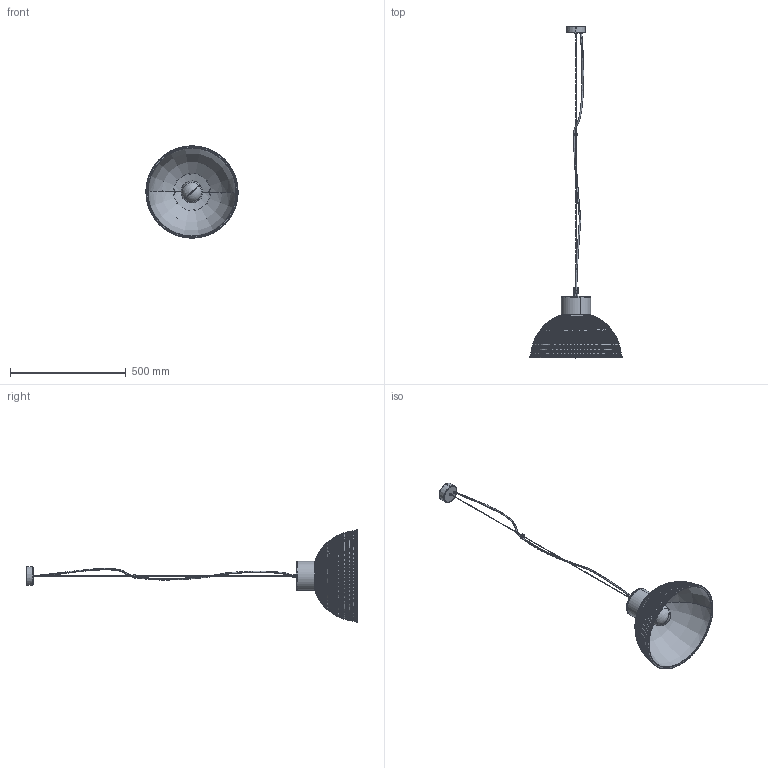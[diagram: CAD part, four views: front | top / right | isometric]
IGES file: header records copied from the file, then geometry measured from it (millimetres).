
Start section: SolidWorks IGES file using analytic representation for surfaces
Global section: file name: E:\3D lampy\Factory\Factory_6928.IGS; native system: SolidWorks 2016; preprocessor: SolidWorks 2016; author: Asia; date: 160930.135950; units: millimetre
Bounding box: 397.94 x 1431.7 x 397.94 mm (x, y, z)
Surface area: 721519.7 mm2 (no closed solid volume)
Topology: 0 solids, 0 shells, 1402 faces, 29223 edges, 29210 vertices
Faces by surface type: bspline 1070, revolution 332
